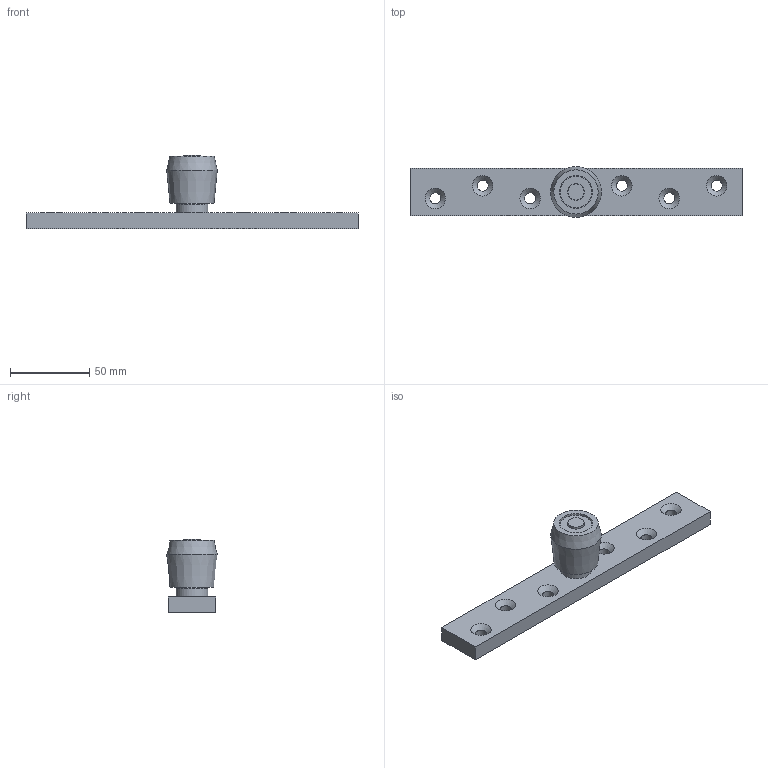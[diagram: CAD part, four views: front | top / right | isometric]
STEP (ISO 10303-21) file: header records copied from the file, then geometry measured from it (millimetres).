
FILE_DESCRIPTION(/* description */ ('Bodenfuehrungsrolle N32'),/* implementation_level */ '2;1');
FILE_NAME(/* name */ 'Q:\sge-ma\Produktmanagement-STB\STB\Workspace\stp\010336301.stp',/* time_stamp */ '2016-07-19T13:18:52+02:00',/* author */ ('avschreier'),/* organization */ (''),/* preprocessor_version */ 'ST-DEVELOPER v16.1',/* originating_system */ 'Autodesk Inventor 2016',/* authorisation */ '');
FILE_SCHEMA (('AUTOMOTIVE_DESIGN { 1 0 10303 214 3 1 1 }'));
Length unit declared in the file: millimetre
Products named in the file (6): 010336301_Schweißnähte; 337000162; 337000158; 337000174; DIN_EN_ISO_7090-10,5_en; 010336301
Assembly tree (5 placements, depth 2):
  010336301
    010336301_Schweißnähte
    337000162
    337000158
    337000174
    DIN_EN_ISO_7090-10,5_en
Bounding box: 210 x 32 x 46.5 mm (x, y, z)
Volume: 82077.8 mm3; surface area: 26946.5 mm2
Topology: 5 solids, 5 shells, 43 faces, 83 edges, 53 vertices
Faces by surface type: plane 17, cylinder 16, cone 10
Full cylindrical faces by diameter (mm): 7 x6, 10.2 x1, 10.5 x1, 12.3 x1, 12.5 x2, 14 x1, 14.2 x1, 20 x2, 21 x1
Entity records: 1165 total; most frequent: DIRECTION 210, CARTESIAN_POINT 164, ORIENTED_EDGE 114, AXIS2_PLACEMENT_3D 99, EDGE_LOOP 92, EDGE_CURVE 57, VERTEX_POINT 53, FACE_BOUND 49
